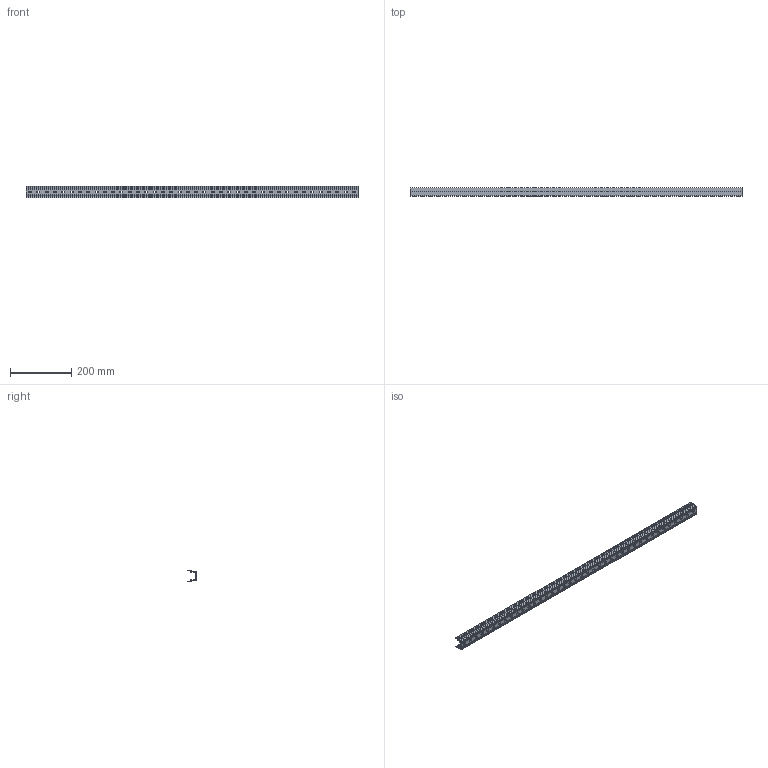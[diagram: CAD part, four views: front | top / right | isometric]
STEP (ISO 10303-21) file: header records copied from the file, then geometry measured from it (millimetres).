
FILE_DESCRIPTION( ( 'STEP AP203' ), '1' );
FILE_NAME( 'C:/Temp/Ganter_Step_05_03_2020/data/3_8/gn_646_3/Carrier profile GN 646.3-1080-B (15).stp', '2020-03-12T15:24:25', ( 'License CC BY-ND 4.0' ), ( 'CADENAS' ), ' ', 'PARTsolutions', ' ' );
FILE_SCHEMA( ( 'CONFIG_CONTROL_DESIGN' ) );
Length unit declared in the file: millimetre
Products named in the file (1): _Carrier profile GN 646.3-1080-B (15)
Bounding box: 1080 x 26.5 x 36 mm (x, y, z)
Volume: 178083.7 mm3; surface area: 225176.4 mm2
Topology: 1 solids, 1 shells, 272 faces, 810 edges, 540 vertices
Faces by surface type: plane 150, cylinder 122
Entity records: 9382 total; most frequent: CARTESIAN_POINT 1623, ORIENTED_EDGE 1620, DIRECTION 1600, EDGE_CURVE 810, LINE 566, VECTOR 566, VERTEX_POINT 540, AXIS2_PLACEMENT_3D 517
